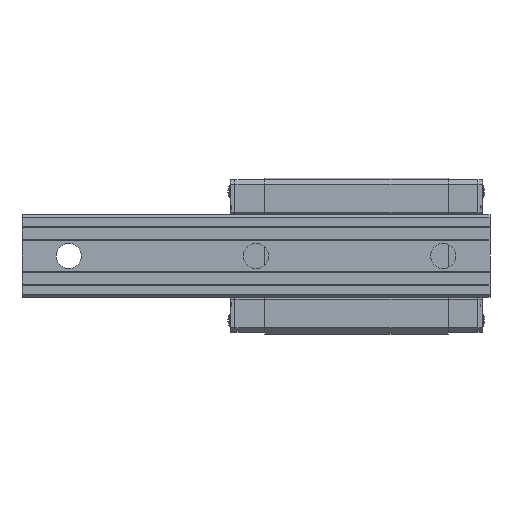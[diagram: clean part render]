
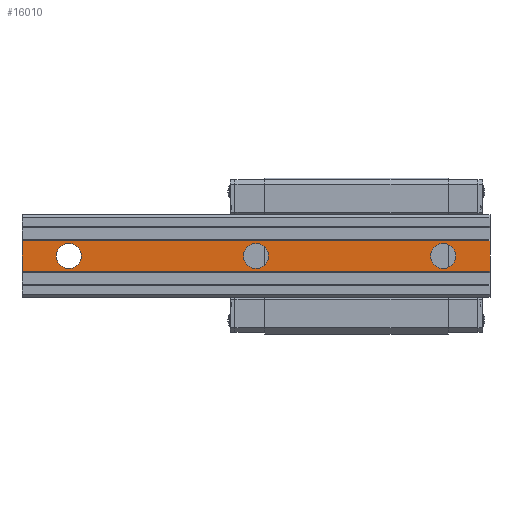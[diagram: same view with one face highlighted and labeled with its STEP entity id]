
A CAD part, front view. The second image highlights one B-rep face of the part: STEP entity #16010.
In plain terms, the highlighted planar face has unit normal (0, -1, 0).
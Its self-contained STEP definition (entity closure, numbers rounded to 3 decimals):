
#77 = CARTESIAN_POINT ( 'NONE',  ( 120., 0., 8. ) ) ;
#233 = CARTESIAN_POINT ( 'NONE',  ( -150., 0., 9.75 ) ) ;
#234 = DIRECTION ( 'NONE',  ( 0., 1., 0. ) ) ;
#262 = ORIENTED_EDGE ( 'NONE', *, *, #12709, .F. ) ;
#310 = DIRECTION ( 'NONE',  ( 0., 0., 1. ) ) ;
#322 = AXIS2_PLACEMENT_3D ( 'NONE', #14088, #234, #310 ) ;
#342 = AXIS2_PLACEMENT_3D ( 'NONE', #16000, #13654, #7507 ) ;
#1038 = FACE_BOUND ( 'NONE', #12517, .T. ) ;
#1149 = VECTOR ( 'NONE', #4684, 1000. ) ;
#1273 = FACE_OUTER_BOUND ( 'NONE', #1635, .T. ) ;
#1338 = ORIENTED_EDGE ( 'NONE', *, *, #13145, .F. ) ;
#1341 = CIRCLE ( 'NONE', #4725, 8. ) ;
#1467 = VECTOR ( 'NONE', #4018, 1000. ) ;
#1635 = EDGE_LOOP ( 'NONE', ( #5297, #5200, #10917, #9149 ) ) ;
#1847 = ORIENTED_EDGE ( 'NONE', *, *, #2065, .F. ) ;
#1997 = LINE ( 'NONE', #3365, #13088 ) ;
#2065 = EDGE_CURVE ( 'NONE', #4928, #6910, #7917, .T. ) ;
#2411 = CARTESIAN_POINT ( 'NONE',  ( 150., 0., -9.75 ) ) ;
#2583 = DIRECTION ( 'NONE',  ( 0., 0., -1. ) ) ;
#2948 = CIRCLE ( 'NONE', #342, 8. ) ;
#2951 = CARTESIAN_POINT ( 'NONE',  ( 150., 0., -9.75 ) ) ;
#2983 = VERTEX_POINT ( 'NONE', #4311 ) ;
#3252 = CIRCLE ( 'NONE', #14607, 8. ) ;
#3365 = CARTESIAN_POINT ( 'NONE',  ( 150., 0., 24.294 ) ) ;
#3704 = DIRECTION ( 'NONE',  ( 0., -1., 0. ) ) ;
#4018 = DIRECTION ( 'NONE',  ( 1., 0., 0. ) ) ;
#4264 = DIRECTION ( 'NONE',  ( 0., 0., -1. ) ) ;
#4311 = CARTESIAN_POINT ( 'NONE',  ( -150., 0., -9.75 ) ) ;
#4684 = DIRECTION ( 'NONE',  ( 0., 0., -1. ) ) ;
#4689 = EDGE_CURVE ( 'NONE', #10361, #13002, #5225, .T. ) ;
#4725 = AXIS2_PLACEMENT_3D ( 'NONE', #10467, #15365, #4264 ) ;
#4783 = AXIS2_PLACEMENT_3D ( 'NONE', #10574, #13222, #9348 ) ;
#4928 = VERTEX_POINT ( 'NONE', #6437 ) ;
#5096 = EDGE_LOOP ( 'NONE', ( #8144, #11825 ) ) ;
#5200 = ORIENTED_EDGE ( 'NONE', *, *, #4689, .F. ) ;
#5225 = LINE ( 'NONE', #12482, #1467 ) ;
#5297 = ORIENTED_EDGE ( 'NONE', *, *, #13798, .F. ) ;
#6220 = CARTESIAN_POINT ( 'NONE',  ( 0., 0., 8. ) ) ;
#6259 = CARTESIAN_POINT ( 'NONE',  ( 120., 0., 0. ) ) ;
#6437 = CARTESIAN_POINT ( 'NONE',  ( 0., 0., -8. ) ) ;
#6446 = VERTEX_POINT ( 'NONE', #8995 ) ;
#6747 = CARTESIAN_POINT ( 'NONE',  ( -120., 0., -8. ) ) ;
#6910 = VERTEX_POINT ( 'NONE', #6220 ) ;
#6968 = DIRECTION ( 'NONE',  ( 0., 0., -1. ) ) ;
#7142 = CARTESIAN_POINT ( 'NONE',  ( 0., 0., 0. ) ) ;
#7507 = DIRECTION ( 'NONE',  ( 0., 0., -1. ) ) ;
#7558 = VERTEX_POINT ( 'NONE', #6747 ) ;
#7606 = VERTEX_POINT ( 'NONE', #11450 ) ;
#7917 = CIRCLE ( 'NONE', #4783, 8. ) ;
#8144 = ORIENTED_EDGE ( 'NONE', *, *, #10926, .F. ) ;
#8167 = AXIS2_PLACEMENT_3D ( 'NONE', #7142, #12110, #6968 ) ;
#8206 = CARTESIAN_POINT ( 'NONE',  ( -150., 0., 24.294 ) ) ;
#8858 = PLANE ( 'NONE',  #322 ) ;
#8947 = VECTOR ( 'NONE', #9737, 1000. ) ;
#8995 = CARTESIAN_POINT ( 'NONE',  ( 120., 0., -8. ) ) ;
#9143 = EDGE_CURVE ( 'NONE', #14021, #2983, #13684, .T. ) ;
#9149 = ORIENTED_EDGE ( 'NONE', *, *, #9143, .F. ) ;
#9190 = AXIS2_PLACEMENT_3D ( 'NONE', #6259, #13430, #11227 ) ;
#9348 = DIRECTION ( 'NONE',  ( 0., 0., -1. ) ) ;
#9737 = DIRECTION ( 'NONE',  ( -1., 0., 0. ) ) ;
#9971 = VERTEX_POINT ( 'NONE', #77 ) ;
#10088 = FACE_BOUND ( 'NONE', #5096, .T. ) ;
#10361 = VERTEX_POINT ( 'NONE', #233 ) ;
#10467 = CARTESIAN_POINT ( 'NONE',  ( -120., 0., 0. ) ) ;
#10574 = CARTESIAN_POINT ( 'NONE',  ( 0., 0., 0. ) ) ;
#10854 = EDGE_CURVE ( 'NONE', #10361, #2983, #13459, .T. ) ;
#10917 = ORIENTED_EDGE ( 'NONE', *, *, #10854, .T. ) ;
#10926 = EDGE_CURVE ( 'NONE', #6446, #9971, #3252, .T. ) ;
#11227 = DIRECTION ( 'NONE',  ( 0., 0., -1. ) ) ;
#11450 = CARTESIAN_POINT ( 'NONE',  ( -120., 0., 8. ) ) ;
#11505 = CIRCLE ( 'NONE', #9190, 8. ) ;
#11825 = ORIENTED_EDGE ( 'NONE', *, *, #13159, .F. ) ;
#12110 = DIRECTION ( 'NONE',  ( 0., -1., 0. ) ) ;
#12267 = FACE_BOUND ( 'NONE', #13347, .T. ) ;
#12305 = EDGE_CURVE ( 'NONE', #6910, #4928, #15903, .T. ) ;
#12482 = CARTESIAN_POINT ( 'NONE',  ( 150., 0., 9.75 ) ) ;
#12517 = EDGE_LOOP ( 'NONE', ( #1338, #262 ) ) ;
#12709 = EDGE_CURVE ( 'NONE', #7606, #7558, #1341, .T. ) ;
#13002 = VERTEX_POINT ( 'NONE', #14995 ) ;
#13088 = VECTOR ( 'NONE', #14293, 1000. ) ;
#13145 = EDGE_CURVE ( 'NONE', #7558, #7606, #2948, .T. ) ;
#13159 = EDGE_CURVE ( 'NONE', #9971, #6446, #11505, .T. ) ;
#13222 = DIRECTION ( 'NONE',  ( 0., -1., 0. ) ) ;
#13347 = EDGE_LOOP ( 'NONE', ( #1847, #13858 ) ) ;
#13430 = DIRECTION ( 'NONE',  ( 0., -1., 0. ) ) ;
#13459 = LINE ( 'NONE', #8206, #1149 ) ;
#13654 = DIRECTION ( 'NONE',  ( 0., -1., 0. ) ) ;
#13684 = LINE ( 'NONE', #2411, #8947 ) ;
#13798 = EDGE_CURVE ( 'NONE', #13002, #14021, #1997, .T. ) ;
#13858 = ORIENTED_EDGE ( 'NONE', *, *, #12305, .F. ) ;
#14021 = VERTEX_POINT ( 'NONE', #2951 ) ;
#14088 = CARTESIAN_POINT ( 'NONE',  ( 150., 0., 24.5 ) ) ;
#14293 = DIRECTION ( 'NONE',  ( 0., 0., -1. ) ) ;
#14607 = AXIS2_PLACEMENT_3D ( 'NONE', #14888, #3704, #2583 ) ;
#14888 = CARTESIAN_POINT ( 'NONE',  ( 120., 0., 0. ) ) ;
#14995 = CARTESIAN_POINT ( 'NONE',  ( 150., 0., 9.75 ) ) ;
#15365 = DIRECTION ( 'NONE',  ( 0., -1., 0. ) ) ;
#15903 = CIRCLE ( 'NONE', #8167, 8. ) ;
#16000 = CARTESIAN_POINT ( 'NONE',  ( -120., 0., 0. ) ) ;
#16010 = ADVANCED_FACE ( 'NONE', ( #1273, #1038, #10088, #12267 ), #8858, .F. ) ;
